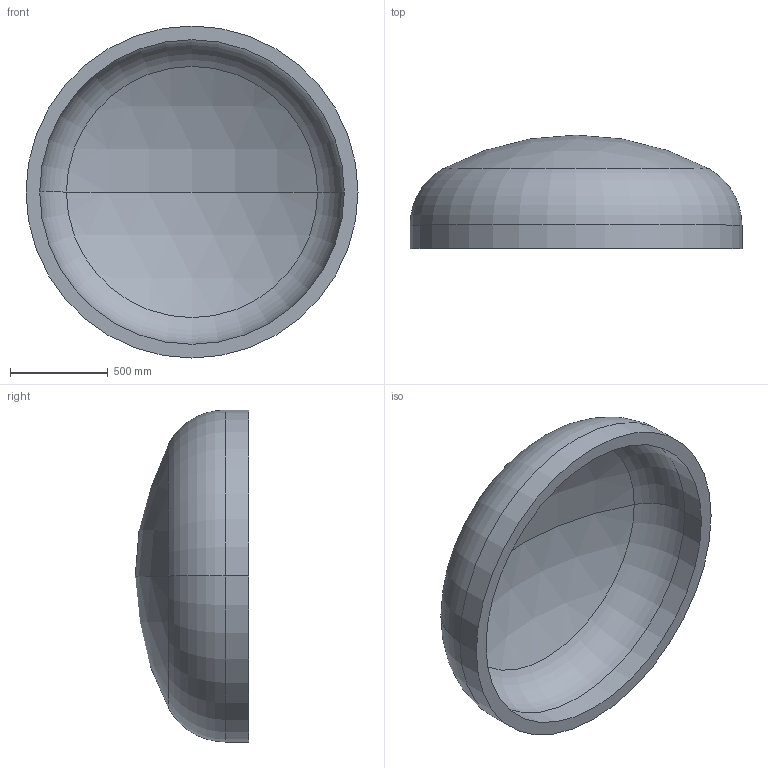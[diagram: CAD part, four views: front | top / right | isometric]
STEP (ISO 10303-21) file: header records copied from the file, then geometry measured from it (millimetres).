
FILE_DESCRIPTION (( 'STEP AP203' ), '1' );
FILE_NAME ('DIN 28013 Korbbogenform_-_Boden DIN 28013 - 1700 x 120 - I - s=70.step', '2016-07-01T11:59:25', ( '' ), ( '' ), 'SwSTEP 2.0', 'SolidWorks 2013', '' );
FILE_SCHEMA (( 'CONFIG_CONTROL_DESIGN' ));
Length unit declared in the file: millimetre
Products named in the file (1): DIN 28013 Korbbogenform_-_Boden DIN 28013 - 1700 x 120 - I - s=70
Bounding box: 1700 x 580.67 x 1700 mm (x, y, z)
Volume: 251356448.9 mm3; surface area: 7550329.1 mm2
Topology: 1 solids, 1 shells, 13 faces, 24 edges, 14 vertices
Faces by surface type: torus 4, cylinder 4, sphere 4, plane 1
Entity records: 407 total; most frequent: DIRECTION 72, CARTESIAN_POINT 52, ORIENTED_EDGE 48, AXIS2_PLACEMENT_3D 34, EDGE_CURVE 24, CIRCLE 20, VERTEX_POINT 14, EDGE_LOOP 14
